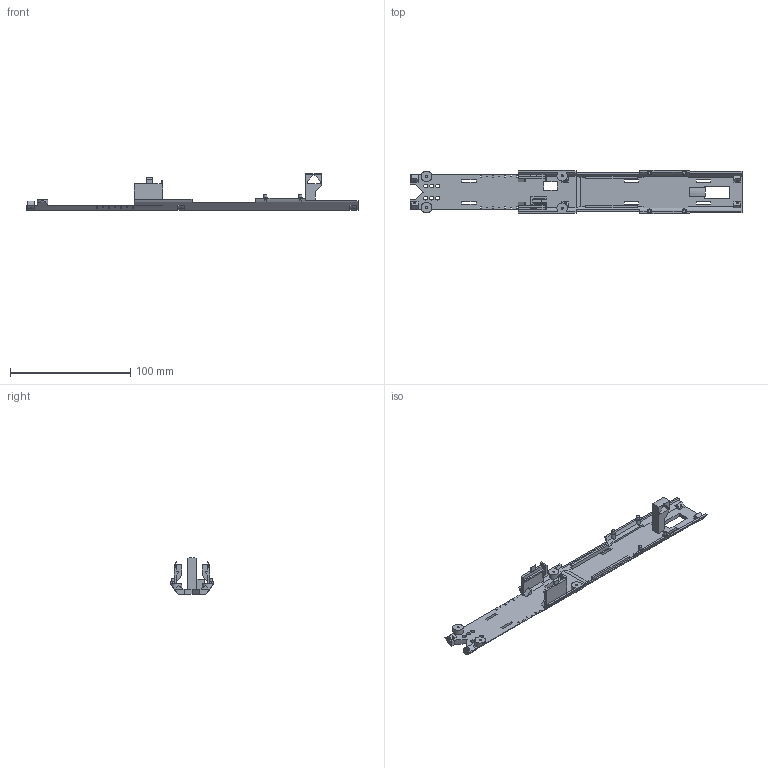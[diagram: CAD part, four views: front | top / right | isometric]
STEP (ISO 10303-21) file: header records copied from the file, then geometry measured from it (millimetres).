
FILE_DESCRIPTION(('SkyG Speed 90B - revision C6B-24 - 2026-10-17','TR-equipment-tray'),'2;1');
FILE_NAME('TR-equipment-tray_C6B-24','2026-10-17T20:03:06',('Author'),( 'Open CASCADE'),'Open CASCADE STEP processor 7.9','Open CASCADE 7.9' ,'Unknown');
FILE_SCHEMA(('AUTOMOTIVE_DESIGN { 1 0 10303 214 1 1 1 1 }'));
Length unit declared in the file: millimetre
Products named in the file (1): TR-equipment-tray C6B-24
Bounding box: 276 x 36.14 x 30.55 mm (x, y, z)
Volume: 33338.1 mm3; surface area: 26852 mm2
Topology: 1 solids, 1 shells, 375 faces, 1103 edges, 737 vertices
Faces by surface type: plane 304, cylinder 71
Full cylindrical faces by diameter (mm): 1.6 x4, 2.6 x4, 3.3 x6, 3.6 x4, 8.8 x2
Entity records: 29229 total; most frequent: CARTESIAN_POINT 8770, DIRECTION 3286, ORIENTED_EDGE 2206, PCURVE 2206, DEFINITIONAL_REPRESENTATION 2206, LINE 2077, VECTOR 2077, EDGE_CURVE 1103
